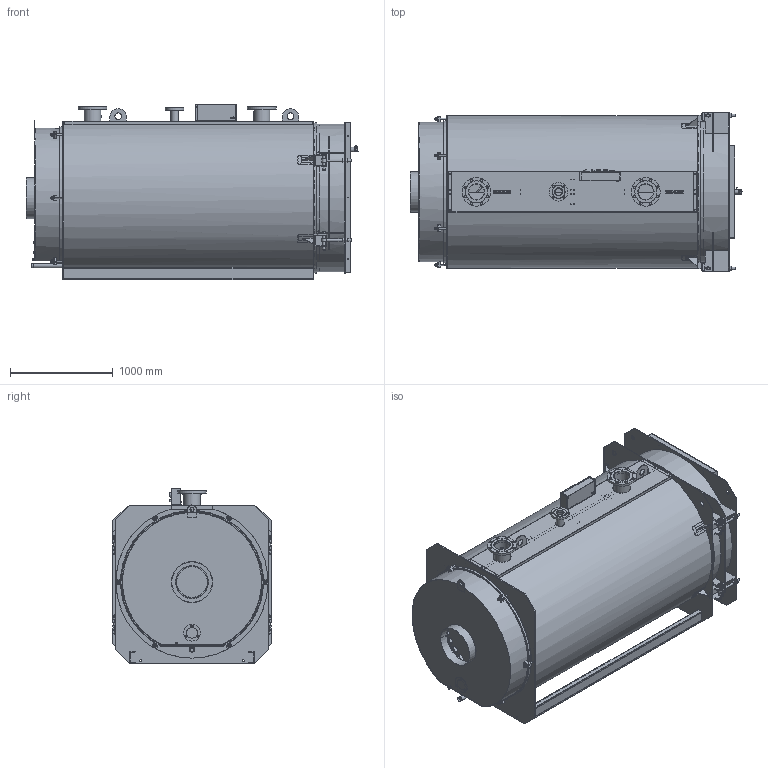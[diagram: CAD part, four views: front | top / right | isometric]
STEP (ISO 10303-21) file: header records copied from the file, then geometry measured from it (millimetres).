
FILE_DESCRIPTION(('STEP AP242'), '1');
FILE_NAME('TITAN Prom 4 (1400-1500 êÂò)', '', ('UNSPECIFIED'), ('UNSPECIFIED'), 'ASCON STEP Converter 1.6', 'ASCON Math Kernel', '');
FILE_SCHEMA(('AP242_MANAGED_MODEL_BASED_3D_ENGINEERING_MIM_LF { 1 0 10303 442 1 1 4 }'));
Length unit declared in the file: millimetre
Bounding box: 3235.43 x 1544 x 1708.16 mm (x, y, z)
Volume: 378336193.6 mm3; surface area: 52135734 mm2
Topology: 23 solids, 23 shells, 3297 faces, 8340 edges, 5278 vertices
Faces by surface type: plane 1968, cylinder 932, cone 282, bspline 80, torus 20, extrusion 9, sphere 6
Full cylindrical faces by diameter (mm): 2 x4, 2.8 x27, 3 x1, 3.5 x8, 3.6 x4, 4 x12, 4.5 x8, 4.8 x1, 5 x27, 6 x5, 6.3 x4, 7 x8, 7.6 x1, 8 x3, 9 x2, 9.25 x4, 9.728 x1, 10 x6, 10.5 x1, 11 x1, 12 x12, 13 x9, 14 x4, 14.5 x1, 15 x3, 15.7 x1, 16 x18, 17 x10, 18 x6, 18.632 x1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
Entity records: 162498 total; most frequent: CARTESIAN_POINT 58420, DIRECTION 15543, ORIENTED_EDGE 15118, EDGE_CURVE 7559, AXIS2_PLACEMENT_3D 5595, VERTEX_POINT 5269, EDGE_LOOP 4951, VECTOR 4353
